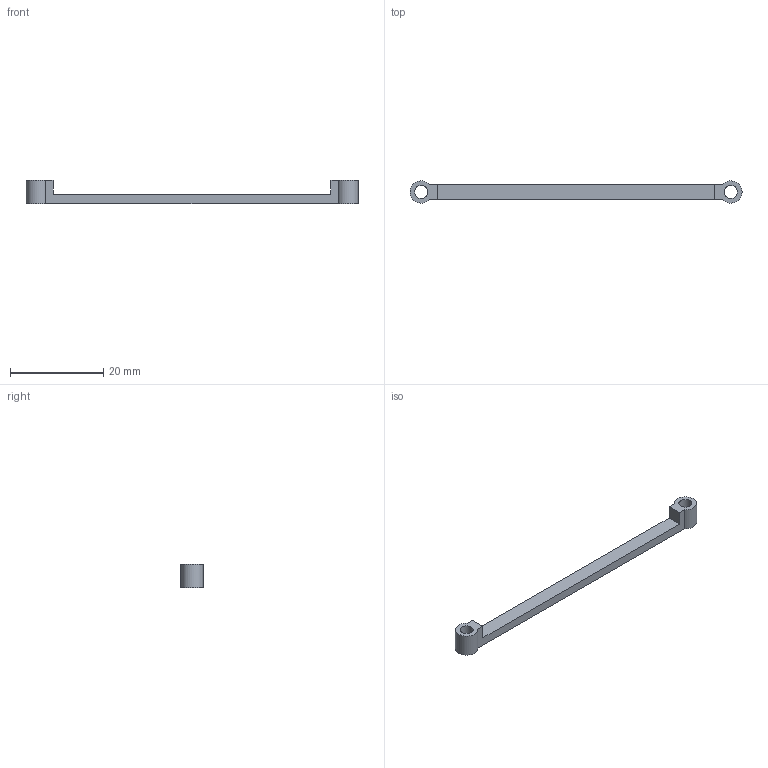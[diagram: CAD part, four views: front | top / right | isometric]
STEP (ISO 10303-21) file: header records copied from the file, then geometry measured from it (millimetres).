
FILE_DESCRIPTION(('Open CASCADE Model'),'2;1');
FILE_NAME('Open CASCADE Shape Model','2026-11-28T16:01:08',('Author'),( 'Open CASCADE'),'Open CASCADE STEP processor 8.0','build123d', 'Unknown');
FILE_SCHEMA(('AUTOMOTIVE_DESIGN { 1 0 10303 214 1 1 1 1 }'));
Length unit declared in the file: millimetre
Products named in the file (2): =>[0:1:1:2]; SOLID
Assembly tree (1 placements, depth 2):
  =>[0:1:1:2]
    SOLID
Bounding box: 71.3 x 4.8 x 5 mm (x, y, z)
Volume: 539.6 mm3; surface area: 939 mm2
Topology: 1 solids, 1 shells, 12 faces, 30 edges, 20 vertices
Faces by surface type: plane 8, cylinder 4
Full cylindrical faces by diameter (mm): 2.8 x2
Entity records: 772 total; most frequent: CARTESIAN_POINT 140, DIRECTION 110, ORIENTED_EDGE 60, PCURVE 60, DEFINITIONAL_REPRESENTATION 60, LINE 58, VECTOR 58, EDGE_CURVE 30
